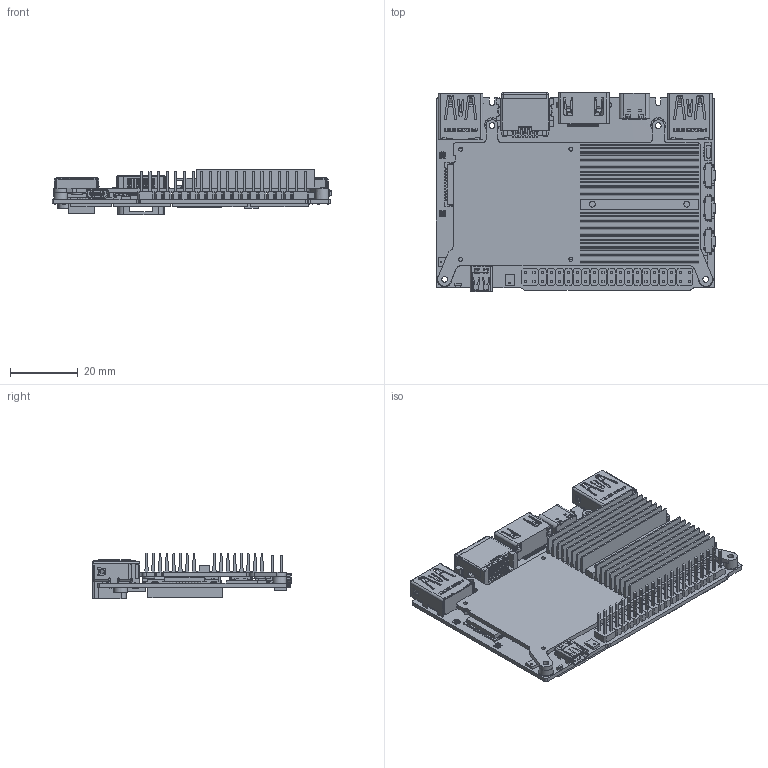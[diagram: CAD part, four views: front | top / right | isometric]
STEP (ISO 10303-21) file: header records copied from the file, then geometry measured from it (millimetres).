
FILE_DESCRIPTION(/* description */ ('STEP AP242 Edition 2','CAx-IF Rec.Pracs.---Representation and Presentation of Product Manufacturing Information (PMI)---4.0---2014-10-13','CAx-IF Rec.Pracs.---3D Tessellated Geometry---0.4---2014-09-14','2;1','CAx-IF Rec.Pracs.---User Defined Attributes---1.5---2016-08-15'),/* implementation_level */ '2;1');
FILE_NAME(/* name */ 'Assy_ForMFG - VIM4_FULL_SIMPLIFIED_1',/* time_stamp */ '2026-05-15T19:57:01Z',/* author */ (''),/* organization */ (''),/* preprocessor_version */ 'ST-DEVELOPER v20',/* originating_system */ 'ONSHAPE BY PTC INC, 1.215',/* authorisation */ ' ');
FILE_SCHEMA (('AP242_MANAGED_MODEL_BASED_3D_ENGINEERING_MIM_LF { 1 0 10303 442 3 1 4 }'));
Products named in the file (1): VIM4_FULL_SIMPLIFIED_1
Bounding box: 82.5 x 58.65 x 13.54 mm (x, y, z)
Volume: 16469.2 mm3; surface area: 31409.7 mm2
Topology: 1 solids, 2 shells, 6425 faces, 18630 edges, 12181 vertices
Faces by surface type: plane 4921, cylinder 1353, sphere 48, cone 40, bspline 33, torus 30
Full cylindrical faces by diameter (mm): 0.4 x6, 0.45 x2, 0.5 x36, 0.65 x4, 0.7 x6, 0.9 x6, 1.1 x1, 1.2 x6, 1.4 x2, 1.5 x4, 1.6 x2, 1.7 x8, 1.8 x2, 2.2 x4, 3.2 x4, 3.48 x1, 3.5 x1, 4 x2, 4.002 x1
Entity records: 210669 total; most frequent: CARTESIAN_POINT 40584, ORIENTED_EDGE 36810, DIRECTION 33228, EDGE_CURVE 18405, LINE 14534, VECTOR 14534, VERTEX_POINT 12112, AXIS2_PLACEMENT_3D 9347
